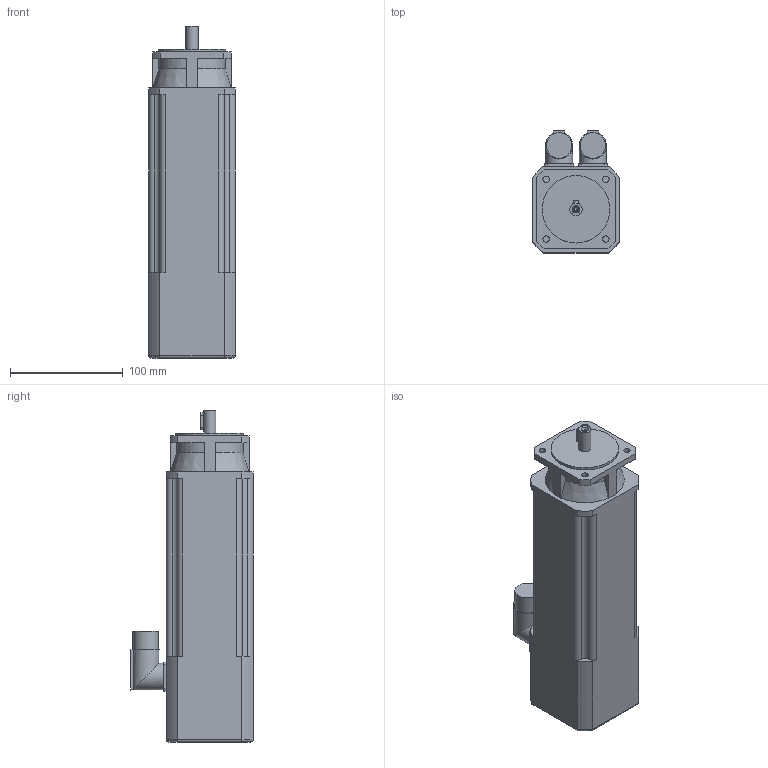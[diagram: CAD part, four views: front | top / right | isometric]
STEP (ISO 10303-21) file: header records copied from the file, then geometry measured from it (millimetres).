
FILE_DESCRIPTION(/* description */ (''),/* implementation_level */ '2;1');
FILE_NAME(/* name */ '\\Lafnas01\disegni\Archivi Lafert\3D\CAD 3D\MODELLI\Assiemi clienti\Serad\Modelli 3D Serad\B36I\Encoder\Enc Without Brake\B3603Ixx6ARx2033.ipt.stp',/* time_stamp */ '2015-09-07T10:48:58+02:00',/* author */ ('Pastrello Ylenia'),/* organization */ (''),/* preprocessor_version */ 'ST-DEVELOPER v15.6',/* originating_system */ 'Autodesk Inventor 2015',/* authorisation */ '');
FILE_SCHEMA (('AUTOMOTIVE_DESIGN { 1 0 10303 214 3 1 1 }'));
Length unit declared in the file: millimetre
Products named in the file (1): B3603Ixx6ARx2033
Bounding box: 77 x 108.5 x 295 mm (x, y, z)
Volume: 1521617.6 mm3; surface area: 101077.7 mm2
Topology: 1 solids, 1 shells, 135 faces, 364 edges, 240 vertices
Faces by surface type: plane 64, cylinder 56, cone 11, torus 4
Full cylindrical faces by diameter (mm): 3.242 x1, 4.3 x1, 5.8 x4, 11 x1, 22.7 x2, 24 x2, 60 x1
Entity records: 4274 total; most frequent: CARTESIAN_POINT 876, DIRECTION 712, ORIENTED_EDGE 686, EDGE_CURVE 343, AXIS2_PLACEMENT_3D 255, VERTEX_POINT 235, LINE 202, VECTOR 202
